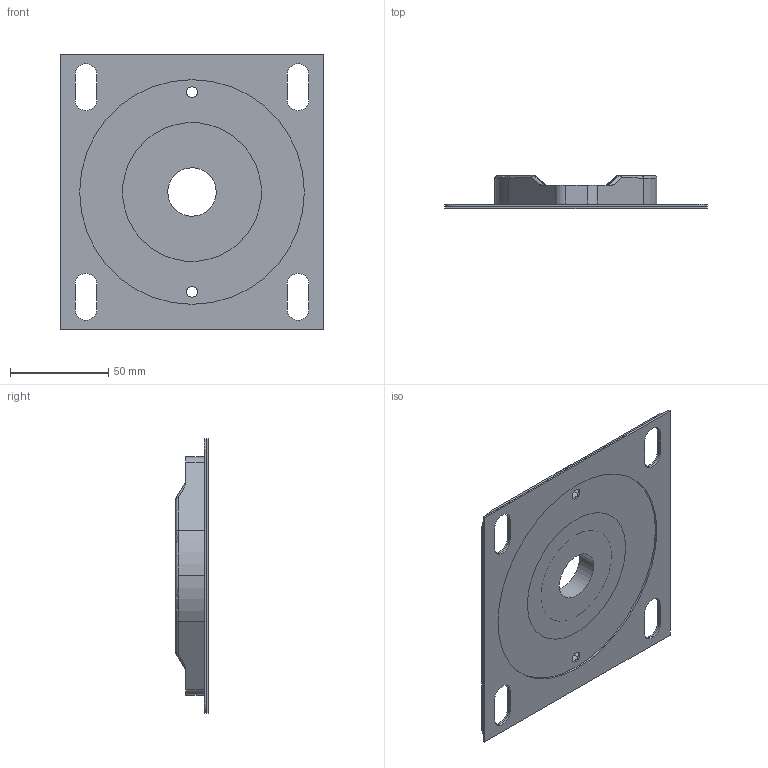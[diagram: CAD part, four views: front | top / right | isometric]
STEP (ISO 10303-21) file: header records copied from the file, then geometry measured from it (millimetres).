
FILE_DESCRIPTION (( 'STEP AP203' ), '1' );
FILE_NAME ('SLF-100T.STEP', '2014-10-29T20:03:50', ( '' ), ( '' ), 'SwSTEP 2.0', 'SolidWorks 2014', '' );
FILE_SCHEMA (( 'CONFIG_CONTROL_DESIGN' ));
Length unit declared in the file: inch
Products named in the file (1): SLF-100T
Bounding box: 133.35 x 16.64 x 139.7 mm (x, y, z)
Surface area: 68211.7 mm2 (no closed solid volume)
Topology: 0 solids, 4 shells, 150 faces, 403 edges, 254 vertices
Faces by surface type: cylinder 76, plane 51, bspline 8, torus 7, cone 4, sphere 4
Entity records: 4993 total; most frequent: CARTESIAN_POINT 1124, DIRECTION 822, ORIENTED_EDGE 761, EDGE_CURVE 399, AXIS2_PLACEMENT_3D 304, VERTEX_POINT 254, LINE 214, VECTOR 214
